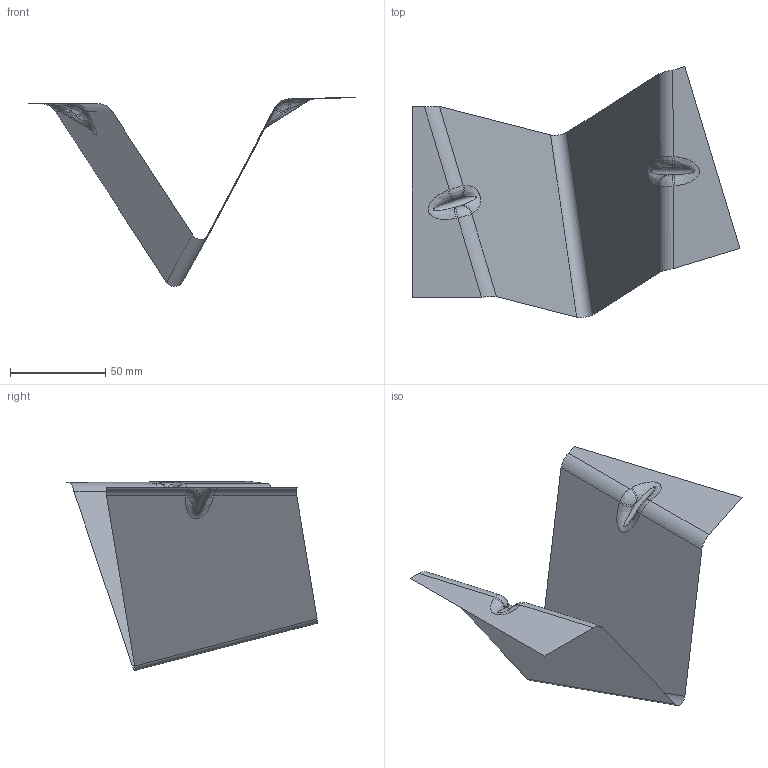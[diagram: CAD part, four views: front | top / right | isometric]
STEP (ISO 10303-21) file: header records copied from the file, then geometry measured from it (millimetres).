
FILE_DESCRIPTION(('CATIA V5 STEP Exchange'),'2;1');
FILE_NAME('C:\_Andres\UNIVERSIDAD\IQS\ASIGNATURAS\DAO\EXF\EXF-16172c\2inicio\Ribera_Armengol_Ej03_v28.stp','2017-03-05T19:32:29+00:00',('none'),('none'),'CATIA Version 5-6 Release 2014 SP1 HF18','CATIA V5 STEP AP203','none');
FILE_SCHEMA(('CONFIG_CONTROL_DESIGN'));
Length unit declared in the file: millimetre
Products named in the file (1): Ribera_Armengol_Ej03_v28
Bounding box: 172.37 x 131.88 x 99.41 mm (x, y, z)
Surface area: 26006.6 mm2 (no closed solid volume)
Topology: 0 solids, 1 shells, 31 faces, 78 edges, 48 vertices
Faces by surface type: cylinder 15, plane 8, bspline 8
Entity records: 2545 total; most frequent: CARTESIAN_POINT 1872, ORIENTED_EDGE 140, DIRECTION 90, EDGE_CURVE 78, VERTEX_POINT 48, VECTOR 40, LINE 40, ADVANCED_FACE 31
